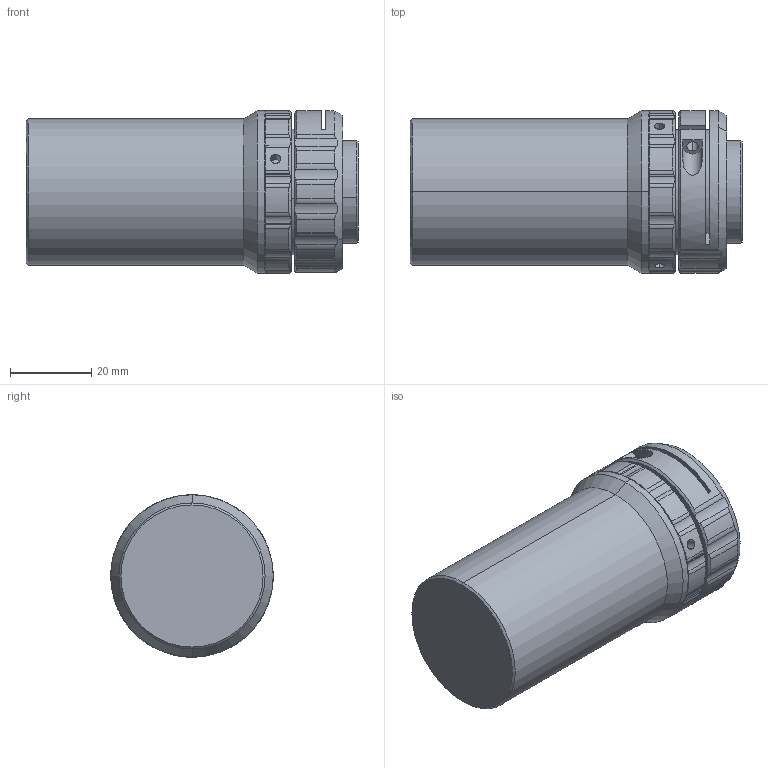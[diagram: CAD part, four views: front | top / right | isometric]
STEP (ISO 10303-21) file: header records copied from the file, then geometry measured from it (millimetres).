
FILE_DESCRIPTION (( 'STEP AP214' ), '1' );
FILE_NAME ('WWT121-025-310.STEP', '2024-03-22T05:59:16', ( '' ), ( '' ), 'SwSTEP 2.0', 'SolidWorks 2017', '' );
FILE_SCHEMA (( 'AUTOMOTIVE_DESIGN' ));
Length unit declared in the file: millimetre
Products named in the file (1): WWT121-025-310
Bounding box: 81.79 x 40 x 40 mm (x, y, z)
Volume: 85084.7 mm3; surface area: 14252.2 mm2
Topology: 1 solids, 1 shells, 192 faces, 492 edges, 308 vertices
Faces by surface type: cylinder 112, plane 43, cone 37
Entity records: 6562 total; most frequent: CARTESIAN_POINT 1865, ORIENTED_EDGE 980, DIRECTION 972, EDGE_CURVE 490, AXIS2_PLACEMENT_3D 411, VERTEX_POINT 308, CIRCLE 218, EDGE_LOOP 204
